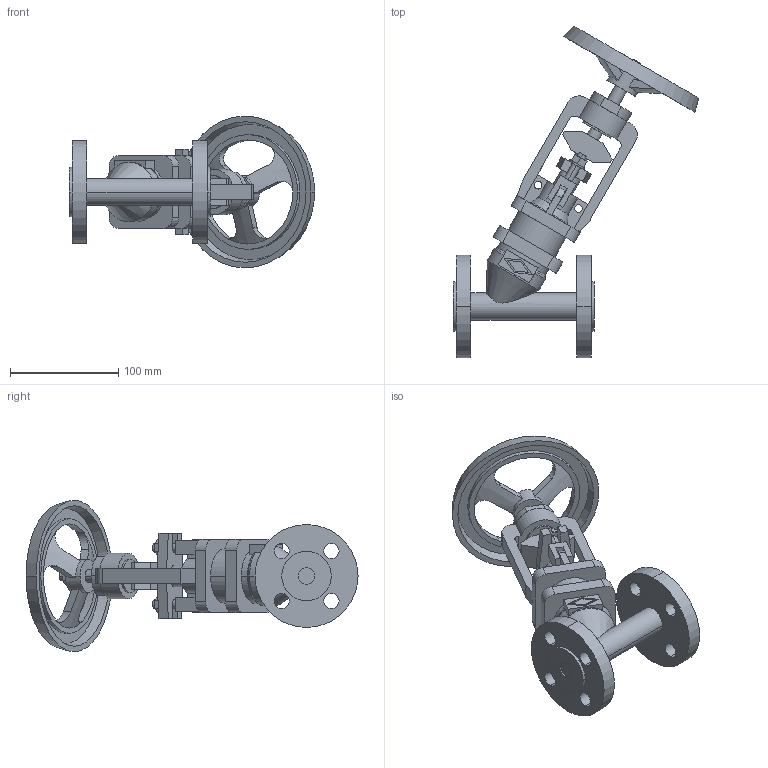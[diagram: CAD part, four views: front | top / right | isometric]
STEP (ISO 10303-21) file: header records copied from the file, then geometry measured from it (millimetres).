
FILE_DESCRIPTION(('OneSpaceDesigner STEP Export'),'2;1');
FILE_NAME('c000004401.stp','2010-05-10T 9:27:31',(''),(''),'OneSpace Designer STEP processor for AP214 (Solid Model)','OneSpace Modeling 15.50B 03-Nov-2007 (C) CoCreate Software GmbH','');
FILE_SCHEMA(('AUTOMOTIVE_DESIGN { 1 0 10303 214 1 1 1 1 }'));
Length unit declared in the file: millimetre
Products named in the file (1): 1
Bounding box: 226.36 x 306.36 x 140 mm (x, y, z)
Volume: 696384 mm3; surface area: 148334.2 mm2
Topology: 1 solids, 1 shells, 288 faces, 748 edges, 488 vertices
Faces by surface type: plane 149, cylinder 105, cone 23, torus 11
Entity records: 11017 total; most frequent: CARTESIAN_POINT 1984, ORIENTED_EDGE 1496, DIRECTION 1246, EDGE_CURVE 748, VERTEX_POINT 488, VECTOR 438, LINE 438, AXIS2_PLACEMENT_3D 404
